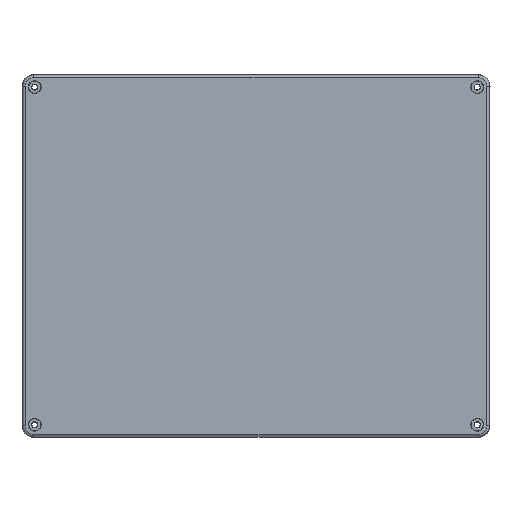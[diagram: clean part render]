
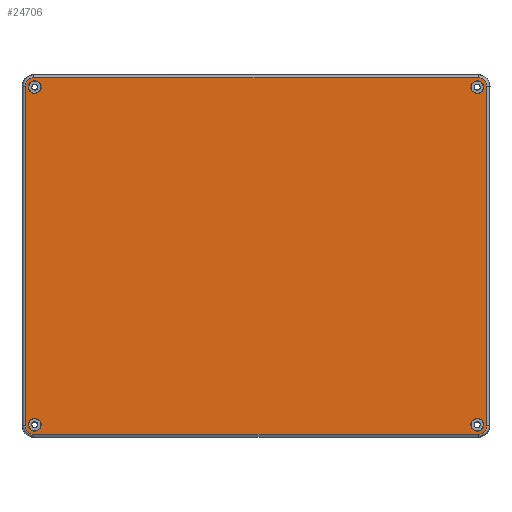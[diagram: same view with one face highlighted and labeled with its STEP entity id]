
A CAD part, top view. The second image highlights one B-rep face of the part: STEP entity #24706.
In plain terms, the highlighted planar face has unit normal (0, 0, 1) as drawn and (0, 0, -1) by its records, which use the part's own axes.
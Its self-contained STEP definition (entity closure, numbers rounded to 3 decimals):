
#535 = ORIENTED_EDGE ( 'NONE', *, *, #24887, .F. ) ;
#943 = ORIENTED_EDGE ( 'NONE', *, *, #44655, .T. ) ;
#1812 = EDGE_CURVE ( 'NONE', #11977, #26357, #13225, .T. ) ;
#2656 = AXIS2_PLACEMENT_3D ( 'NONE', #13677, #28201, #17134 ) ;
#2686 = CARTESIAN_POINT ( 'NONE',  ( -192.3, -146.8, 0. ) ) ;
#2856 = ORIENTED_EDGE ( 'NONE', *, *, #35095, .F. ) ;
#3730 = VERTEX_POINT ( 'NONE', #45336 ) ;
#4487 = EDGE_CURVE ( 'NONE', #5336, #46271, #32407, .T. ) ;
#5336 = VERTEX_POINT ( 'NONE', #43239 ) ;
#5358 = DIRECTION ( 'NONE',  ( 0., 0., -1. ) ) ;
#5443 = EDGE_CURVE ( 'NONE', #18883, #11977, #36078, .T. ) ;
#5641 = AXIS2_PLACEMENT_3D ( 'NONE', #37185, #15761, #26698 ) ;
#5753 = CARTESIAN_POINT ( 'NONE',  ( 192.3, 154.17, 0. ) ) ;
#6202 = AXIS2_PLACEMENT_3D ( 'NONE', #45908, #27954, #21710 ) ;
#6481 = LINE ( 'NONE', #28193, #15981 ) ;
#6706 = CARTESIAN_POINT ( 'NONE',  ( 191.25, -146., 0. ) ) ;
#6872 = EDGE_CURVE ( 'NONE', #26374, #3730, #31561, .T. ) ;
#6934 = ORIENTED_EDGE ( 'NONE', *, *, #4487, .T. ) ;
#7728 = CIRCLE ( 'NONE', #20847, 7.37 ) ;
#7771 = CIRCLE ( 'NONE', #43419, 5.5 ) ;
#8258 = ORIENTED_EDGE ( 'NONE', *, *, #12539, .F. ) ;
#8285 = DIRECTION ( 'NONE',  ( 0., 0., -1. ) ) ;
#8857 = DIRECTION ( 'NONE',  ( 1., 0., 0. ) ) ;
#9234 = DIRECTION ( 'NONE',  ( 0., 0., -1. ) ) ;
#9554 = CARTESIAN_POINT ( 'NONE',  ( -199.67, 0., 0. ) ) ;
#9965 = VECTOR ( 'NONE', #30679, 1000. ) ;
#10489 = CARTESIAN_POINT ( 'NONE',  ( -196.75, -146., 0. ) ) ;
#10610 = DIRECTION ( 'NONE',  ( 1., 0., 0. ) ) ;
#10634 = CARTESIAN_POINT ( 'NONE',  ( 196.75, 146., 0. ) ) ;
#11020 = CARTESIAN_POINT ( 'NONE',  ( -199.67, -146.8, 0. ) ) ;
#11977 = VERTEX_POINT ( 'NONE', #12922 ) ;
#12539 = EDGE_CURVE ( 'NONE', #12644, #22520, #31149, .T. ) ;
#12644 = VERTEX_POINT ( 'NONE', #38143 ) ;
#12736 = EDGE_LOOP ( 'NONE', ( #2856, #39096 ) ) ;
#12922 = CARTESIAN_POINT ( 'NONE',  ( -192.3, -154.17, 0. ) ) ;
#13225 = CIRCLE ( 'NONE', #18661, 7.37 ) ;
#13243 = EDGE_CURVE ( 'NONE', #3730, #26374, #27722, .T. ) ;
#13317 = EDGE_CURVE ( 'NONE', #41013, #38246, #6481, .T. ) ;
#13677 = CARTESIAN_POINT ( 'NONE',  ( 192.3, -146.8, 0. ) ) ;
#13812 = CARTESIAN_POINT ( 'NONE',  ( 192.3, 146.8, 0. ) ) ;
#14942 = EDGE_CURVE ( 'NONE', #22520, #12644, #23178, .T. ) ;
#15504 = EDGE_LOOP ( 'NONE', ( #43227, #535 ) ) ;
#15761 = DIRECTION ( 'NONE',  ( 0., 0., -1. ) ) ;
#15981 = VECTOR ( 'NONE', #28657, 1000. ) ;
#16329 = CARTESIAN_POINT ( 'NONE',  ( -191.25, 146., 0. ) ) ;
#17010 = CARTESIAN_POINT ( 'NONE',  ( 199.67, 146.8, 0. ) ) ;
#17134 = DIRECTION ( 'NONE',  ( 1., 0., 0. ) ) ;
#17421 = LINE ( 'NONE', #19030, #44771 ) ;
#18224 = VERTEX_POINT ( 'NONE', #10489 ) ;
#18661 = AXIS2_PLACEMENT_3D ( 'NONE', #2686, #9234, #34253 ) ;
#18883 = VERTEX_POINT ( 'NONE', #25236 ) ;
#19030 = CARTESIAN_POINT ( 'NONE',  ( 0., 154.17, 0. ) ) ;
#19853 = DIRECTION ( 'NONE',  ( -1., 0., 0. ) ) ;
#20471 = DIRECTION ( 'NONE',  ( 0., 0., -1. ) ) ;
#20847 = AXIS2_PLACEMENT_3D ( 'NONE', #13812, #24888, #24734 ) ;
#20928 = EDGE_CURVE ( 'NONE', #38246, #18883, #23698, .T. ) ;
#20999 = AXIS2_PLACEMENT_3D ( 'NONE', #28561, #39210, #10610 ) ;
#21013 = EDGE_LOOP ( 'NONE', ( #943, #6934, #41582, #34234, #29913, #38667, #36691, #33600 ) ) ;
#21150 = AXIS2_PLACEMENT_3D ( 'NONE', #28040, #31348, #42264 ) ;
#21681 = VERTEX_POINT ( 'NONE', #5753 ) ;
#21710 = DIRECTION ( 'NONE',  ( -1., 0., 0. ) ) ;
#21884 = ORIENTED_EDGE ( 'NONE', *, *, #13243, .F. ) ;
#22493 = AXIS2_PLACEMENT_3D ( 'NONE', #35903, #35763, #36376 ) ;
#22520 = VERTEX_POINT ( 'NONE', #41327 ) ;
#23178 = CIRCLE ( 'NONE', #6202, 5.5 ) ;
#23698 = CIRCLE ( 'NONE', #2656, 7.37 ) ;
#24002 = DIRECTION ( 'NONE',  ( 0., 0., -1. ) ) ;
#24062 = DIRECTION ( 'NONE',  ( -1., 0., 0. ) ) ;
#24470 = EDGE_CURVE ( 'NONE', #44792, #38946, #7771, .T. ) ;
#24706 = ADVANCED_FACE ( 'NONE', ( #40757, #34036, #31258, #25086, #34616 ), #46196, .F. ) ;
#24734 = DIRECTION ( 'NONE',  ( 1., 0., 0. ) ) ;
#24887 = EDGE_CURVE ( 'NONE', #36060, #18224, #26199, .T. ) ;
#24888 = DIRECTION ( 'NONE',  ( 0., 0., -1. ) ) ;
#25086 = FACE_BOUND ( 'NONE', #29455, .T. ) ;
#25236 = CARTESIAN_POINT ( 'NONE',  ( 192.3, -154.17, 0. ) ) ;
#25568 = CARTESIAN_POINT ( 'NONE',  ( 185.75, 146., 0. ) ) ;
#26052 = CARTESIAN_POINT ( 'NONE',  ( -192.3, 154.17, 0. ) ) ;
#26199 = CIRCLE ( 'NONE', #22493, 5.5 ) ;
#26357 = VERTEX_POINT ( 'NONE', #11020 ) ;
#26374 = VERTEX_POINT ( 'NONE', #36498 ) ;
#26698 = DIRECTION ( 'NONE',  ( -1., 0., 0. ) ) ;
#26917 = CARTESIAN_POINT ( 'NONE',  ( -191.25, -146., 0. ) ) ;
#27346 = EDGE_CURVE ( 'NONE', #18224, #36060, #44074, .T. ) ;
#27722 = CIRCLE ( 'NONE', #40319, 5.5 ) ;
#27954 = DIRECTION ( 'NONE',  ( 0., 0., -1. ) ) ;
#28040 = CARTESIAN_POINT ( 'NONE',  ( -192.3, 146.8, 0. ) ) ;
#28193 = CARTESIAN_POINT ( 'NONE',  ( 199.67, 0., 0. ) ) ;
#28201 = DIRECTION ( 'NONE',  ( 0., 0., -1. ) ) ;
#28561 = CARTESIAN_POINT ( 'NONE',  ( 0., 0., 0. ) ) ;
#28599 = AXIS2_PLACEMENT_3D ( 'NONE', #6706, #20471, #24062 ) ;
#28657 = DIRECTION ( 'NONE',  ( 0., -1., 0. ) ) ;
#29455 = EDGE_LOOP ( 'NONE', ( #42766, #21884 ) ) ;
#29688 = CARTESIAN_POINT ( 'NONE',  ( 191.25, 146., 0. ) ) ;
#29913 = ORIENTED_EDGE ( 'NONE', *, *, #13317, .T. ) ;
#30679 = DIRECTION ( 'NONE',  ( 0., 1., 0. ) ) ;
#30845 = ORIENTED_EDGE ( 'NONE', *, *, #14942, .F. ) ;
#31149 = CIRCLE ( 'NONE', #28599, 5.5 ) ;
#31258 = FACE_BOUND ( 'NONE', #15504, .T. ) ;
#31348 = DIRECTION ( 'NONE',  ( 0., 0., -1. ) ) ;
#31561 = CIRCLE ( 'NONE', #35384, 5.5 ) ;
#31822 = DIRECTION ( 'NONE',  ( -1., 0., 0. ) ) ;
#31972 = CARTESIAN_POINT ( 'NONE',  ( -191.25, 146., 0. ) ) ;
#32407 = CIRCLE ( 'NONE', #21150, 7.37 ) ;
#32859 = CARTESIAN_POINT ( 'NONE',  ( 199.67, -146.8, 0. ) ) ;
#33299 = DIRECTION ( 'NONE',  ( -1., 0., 0. ) ) ;
#33600 = ORIENTED_EDGE ( 'NONE', *, *, #1812, .T. ) ;
#34036 = FACE_BOUND ( 'NONE', #46300, .T. ) ;
#34234 = ORIENTED_EDGE ( 'NONE', *, *, #42734, .T. ) ;
#34253 = DIRECTION ( 'NONE',  ( 1., 0., 0. ) ) ;
#34472 = DIRECTION ( 'NONE',  ( -1., 0., 0. ) ) ;
#34544 = CARTESIAN_POINT ( 'NONE',  ( -185.75, -146., 0. ) ) ;
#34603 = DIRECTION ( 'NONE',  ( -1., 0., 0. ) ) ;
#34616 = FACE_BOUND ( 'NONE', #12736, .T. ) ;
#35095 = EDGE_CURVE ( 'NONE', #38946, #44792, #36687, .T. ) ;
#35384 = AXIS2_PLACEMENT_3D ( 'NONE', #16329, #24002, #34472 ) ;
#35763 = DIRECTION ( 'NONE',  ( 0., 0., -1. ) ) ;
#35903 = CARTESIAN_POINT ( 'NONE',  ( -191.25, -146., 0. ) ) ;
#36060 = VERTEX_POINT ( 'NONE', #34544 ) ;
#36078 = LINE ( 'NONE', #44834, #39996 ) ;
#36376 = DIRECTION ( 'NONE',  ( -1., 0., 0. ) ) ;
#36498 = CARTESIAN_POINT ( 'NONE',  ( -196.75, 146., 0. ) ) ;
#36687 = CIRCLE ( 'NONE', #5641, 5.5 ) ;
#36691 = ORIENTED_EDGE ( 'NONE', *, *, #5443, .T. ) ;
#37185 = CARTESIAN_POINT ( 'NONE',  ( 191.25, 146., 0. ) ) ;
#38143 = CARTESIAN_POINT ( 'NONE',  ( 185.75, -146., 0. ) ) ;
#38246 = VERTEX_POINT ( 'NONE', #32859 ) ;
#38514 = LINE ( 'NONE', #9554, #9965 ) ;
#38667 = ORIENTED_EDGE ( 'NONE', *, *, #20928, .T. ) ;
#38946 = VERTEX_POINT ( 'NONE', #25568 ) ;
#39090 = EDGE_CURVE ( 'NONE', #46271, #21681, #17421, .T. ) ;
#39096 = ORIENTED_EDGE ( 'NONE', *, *, #24470, .F. ) ;
#39210 = DIRECTION ( 'NONE',  ( 0., 0., 1. ) ) ;
#39996 = VECTOR ( 'NONE', #19853, 1000. ) ;
#40319 = AXIS2_PLACEMENT_3D ( 'NONE', #31972, #43039, #31822 ) ;
#40757 = FACE_OUTER_BOUND ( 'NONE', #21013, .T. ) ;
#41013 = VERTEX_POINT ( 'NONE', #17010 ) ;
#41327 = CARTESIAN_POINT ( 'NONE',  ( 196.75, -146., 0. ) ) ;
#41582 = ORIENTED_EDGE ( 'NONE', *, *, #39090, .T. ) ;
#42264 = DIRECTION ( 'NONE',  ( 1., 0., 0. ) ) ;
#42734 = EDGE_CURVE ( 'NONE', #21681, #41013, #7728, .T. ) ;
#42766 = ORIENTED_EDGE ( 'NONE', *, *, #6872, .F. ) ;
#43039 = DIRECTION ( 'NONE',  ( 0., 0., -1. ) ) ;
#43227 = ORIENTED_EDGE ( 'NONE', *, *, #27346, .F. ) ;
#43239 = CARTESIAN_POINT ( 'NONE',  ( -199.67, 146.8, 0. ) ) ;
#43419 = AXIS2_PLACEMENT_3D ( 'NONE', #29688, #8285, #33299 ) ;
#43577 = AXIS2_PLACEMENT_3D ( 'NONE', #26917, #5358, #34603 ) ;
#44074 = CIRCLE ( 'NONE', #43577, 5.5 ) ;
#44655 = EDGE_CURVE ( 'NONE', #26357, #5336, #38514, .T. ) ;
#44771 = VECTOR ( 'NONE', #8857, 1000. ) ;
#44792 = VERTEX_POINT ( 'NONE', #10634 ) ;
#44834 = CARTESIAN_POINT ( 'NONE',  ( 0., -154.17, 0. ) ) ;
#45336 = CARTESIAN_POINT ( 'NONE',  ( -185.75, 146., 0. ) ) ;
#45908 = CARTESIAN_POINT ( 'NONE',  ( 191.25, -146., 0. ) ) ;
#46196 = PLANE ( 'NONE',  #20999 ) ;
#46271 = VERTEX_POINT ( 'NONE', #26052 ) ;
#46300 = EDGE_LOOP ( 'NONE', ( #8258, #30845 ) ) ;
